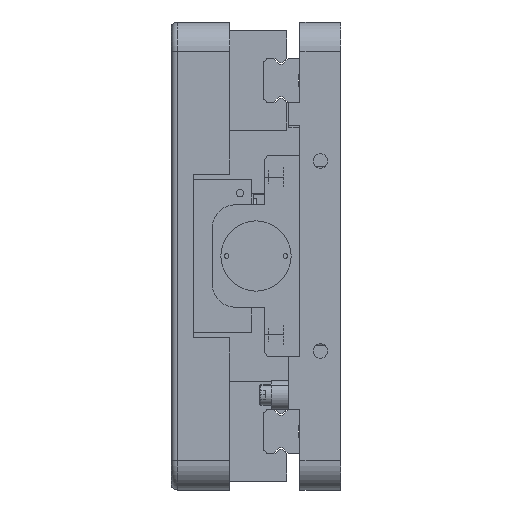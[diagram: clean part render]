
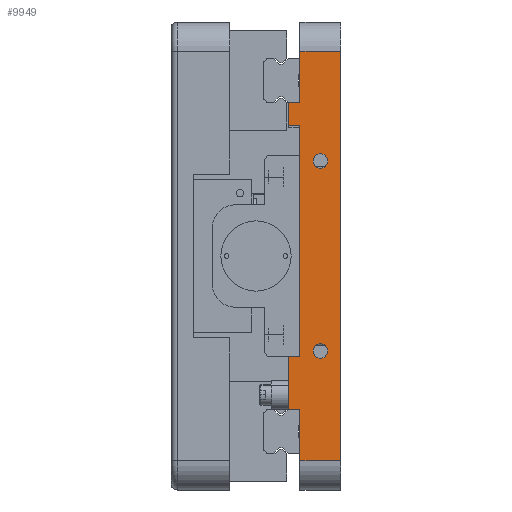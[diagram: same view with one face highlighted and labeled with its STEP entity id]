
A CAD part, left-side view. The second image highlights one B-rep face of the part: STEP entity #9949.
In plain terms, the highlighted planar face has unit normal (-1, 0, 0).
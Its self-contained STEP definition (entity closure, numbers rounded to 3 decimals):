
#179 = VERTEX_POINT ( 'NONE', #90946 ) ;
#828 = LINE ( 'NONE', #59979, #5562 ) ;
#2073 = LINE ( 'NONE', #25555, #38371 ) ;
#2294 = EDGE_CURVE ( 'NONE', #39954, #90303, #96533, .T. ) ;
#2491 = EDGE_CURVE ( 'NONE', #36403, #30332, #14560, .T. ) ;
#2741 = LINE ( 'NONE', #5583, #95250 ) ;
#2960 = ORIENTED_EDGE ( 'NONE', *, *, #2294, .T. ) ;
#3448 = FACE_BOUND ( 'NONE', #56563, .T. ) ;
#3459 = PLANE ( 'NONE',  #17990 ) ;
#4088 = CARTESIAN_POINT ( 'NONE',  ( -261.5, 17.8, -52.5 ) ) ;
#5001 = CIRCLE ( 'NONE', #50780, 2.5 ) ;
#5562 = VECTOR ( 'NONE', #22377, 1000. ) ;
#5583 = CARTESIAN_POINT ( 'NONE',  ( -261.5, 14., -80. ) ) ;
#5595 = LINE ( 'NONE', #10363, #71222 ) ;
#5755 = VERTEX_POINT ( 'NONE', #73834 ) ;
#5859 = DIRECTION ( 'NONE',  ( -1., 0., 0. ) ) ;
#5902 = DIRECTION ( 'NONE',  ( 0., 1., 0. ) ) ;
#5933 = VERTEX_POINT ( 'NONE', #70218 ) ;
#5962 = LINE ( 'NONE', #85434, #68019 ) ;
#8861 = CARTESIAN_POINT ( 'NONE',  ( -261.5, 14., 80. ) ) ;
#9274 = CARTESIAN_POINT ( 'NONE',  ( -261.5, -110.209, -34.5 ) ) ;
#9949 = ADVANCED_FACE ( 'NONE', ( #60838, #3448, #71351 ), #3459, .F. ) ;
#10363 = CARTESIAN_POINT ( 'NONE',  ( -261.5, -523.722, -52.5 ) ) ;
#10428 = VECTOR ( 'NONE', #46252, 1000. ) ;
#11141 = DIRECTION ( 'NONE',  ( 0., 0., 1. ) ) ;
#12021 = VERTEX_POINT ( 'NONE', #62798 ) ;
#12289 = CARTESIAN_POINT ( 'NONE',  ( -261.5, 14., 44.5 ) ) ;
#13191 = VERTEX_POINT ( 'NONE', #91808 ) ;
#13406 = DIRECTION ( 'NONE',  ( 0., 0., -1. ) ) ;
#14560 = CIRCLE ( 'NONE', #58695, 2.5 ) ;
#14819 = ORIENTED_EDGE ( 'NONE', *, *, #58709, .T. ) ;
#15630 = EDGE_CURVE ( 'NONE', #5755, #23147, #5962, .T. ) ;
#17990 = AXIS2_PLACEMENT_3D ( 'NONE', #70853, #26057, #40482 ) ;
#18475 = ORIENTED_EDGE ( 'NONE', *, *, #15630, .T. ) ;
#21573 = ORIENTED_EDGE ( 'NONE', *, *, #43187, .F. ) ;
#22377 = DIRECTION ( 'NONE',  ( 0., 1., 0. ) ) ;
#23058 = CARTESIAN_POINT ( 'NONE',  ( -261.5, 17.8, 44.5 ) ) ;
#23124 = ORIENTED_EDGE ( 'NONE', *, *, #52551, .F. ) ;
#23147 = VERTEX_POINT ( 'NONE', #82208 ) ;
#25406 = DIRECTION ( 'NONE',  ( 0., 0., 1. ) ) ;
#25546 = CARTESIAN_POINT ( 'NONE',  ( -261.5, 14., -34.5 ) ) ;
#25555 = CARTESIAN_POINT ( 'NONE',  ( -261.5, 17.8, -80. ) ) ;
#25813 = LINE ( 'NONE', #72956, #28187 ) ;
#26057 = DIRECTION ( 'NONE',  ( 1., 0., 0. ) ) ;
#27753 = CARTESIAN_POINT ( 'NONE',  ( -261.5, 17.8, -80. ) ) ;
#28070 = DIRECTION ( 'NONE',  ( 0., 0., 1. ) ) ;
#28187 = VECTOR ( 'NONE', #5902, 1000. ) ;
#29798 = ORIENTED_EDGE ( 'NONE', *, *, #54425, .T. ) ;
#30216 = DIRECTION ( 'NONE',  ( 0., 0., 1. ) ) ;
#30332 = VERTEX_POINT ( 'NONE', #66609 ) ;
#30594 = VERTEX_POINT ( 'NONE', #4088 ) ;
#30648 = DIRECTION ( 'NONE',  ( 0., 0., -1. ) ) ;
#31506 = LINE ( 'NONE', #9274, #10428 ) ;
#32656 = DIRECTION ( 'NONE',  ( -1., 0., 0. ) ) ;
#33194 = VECTOR ( 'NONE', #96445, 1000. ) ;
#34245 = DIRECTION ( 'NONE',  ( -1., 0., 0. ) ) ;
#34613 = CARTESIAN_POINT ( 'NONE',  ( -261.5, 0., 70. ) ) ;
#35146 = CIRCLE ( 'NONE', #70793, 2.5 ) ;
#36132 = VERTEX_POINT ( 'NONE', #25546 ) ;
#36403 = VERTEX_POINT ( 'NONE', #83923 ) ;
#36773 = LINE ( 'NONE', #89219, #33194 ) ;
#37346 = ORIENTED_EDGE ( 'NONE', *, *, #66276, .T. ) ;
#37379 = EDGE_CURVE ( 'NONE', #5933, #5755, #2741, .T. ) ;
#37866 = EDGE_CURVE ( 'NONE', #89606, #179, #91590, .T. ) ;
#38371 = VECTOR ( 'NONE', #11141, 1000. ) ;
#39071 = EDGE_CURVE ( 'NONE', #12021, #36132, #45684, .T. ) ;
#39231 = LINE ( 'NONE', #60590, #68477 ) ;
#39954 = VERTEX_POINT ( 'NONE', #56275 ) ;
#40296 = EDGE_CURVE ( 'NONE', #30332, #36403, #48983, .T. ) ;
#40311 = EDGE_CURVE ( 'NONE', #5933, #30594, #5595, .T. ) ;
#40482 = DIRECTION ( 'NONE',  ( 0., 0., -1. ) ) ;
#40488 = ORIENTED_EDGE ( 'NONE', *, *, #40311, .F. ) ;
#40597 = ORIENTED_EDGE ( 'NONE', *, *, #83492, .F. ) ;
#43187 = EDGE_CURVE ( 'NONE', #30594, #80204, #2073, .T. ) ;
#44436 = DIRECTION ( 'NONE',  ( 0., 0., 1. ) ) ;
#45253 = ORIENTED_EDGE ( 'NONE', *, *, #83206, .F. ) ;
#45684 = LINE ( 'NONE', #12289, #81888 ) ;
#46252 = DIRECTION ( 'NONE',  ( 0., 1., 0. ) ) ;
#47438 = ORIENTED_EDGE ( 'NONE', *, *, #40296, .F. ) ;
#48333 = DIRECTION ( 'NONE',  ( 0., 1., 0. ) ) ;
#48883 = ORIENTED_EDGE ( 'NONE', *, *, #37379, .T. ) ;
#48983 = CIRCLE ( 'NONE', #84143, 2.5 ) ;
#50780 = AXIS2_PLACEMENT_3D ( 'NONE', #93732, #34245, #94071 ) ;
#52097 = ORIENTED_EDGE ( 'NONE', *, *, #2491, .F. ) ;
#52211 = EDGE_CURVE ( 'NONE', #90303, #179, #36773, .T. ) ;
#52551 = EDGE_CURVE ( 'NONE', #13191, #65948, #5001, .T. ) ;
#54425 = EDGE_CURVE ( 'NONE', #81012, #39954, #828, .T. ) ;
#56275 = CARTESIAN_POINT ( 'NONE',  ( -261.5, 14., 70. ) ) ;
#56563 = EDGE_LOOP ( 'NONE', ( #47438, #52097 ) ) ;
#58695 = AXIS2_PLACEMENT_3D ( 'NONE', #73876, #5859, #44436 ) ;
#58709 = EDGE_CURVE ( 'NONE', #23147, #81012, #39231, .T. ) ;
#59979 = CARTESIAN_POINT ( 'NONE',  ( -261.5, 17.8, 70. ) ) ;
#60284 = VECTOR ( 'NONE', #91628, 1000. ) ;
#60590 = CARTESIAN_POINT ( 'NONE',  ( -261.5, 0., -80. ) ) ;
#60838 = FACE_BOUND ( 'NONE', #67858, .T. ) ;
#62571 = DIRECTION ( 'NONE',  ( 0., -1., 0. ) ) ;
#62798 = CARTESIAN_POINT ( 'NONE',  ( -261.5, 14., 44.5 ) ) ;
#65841 = VECTOR ( 'NONE', #28070, 1000. ) ;
#65948 = VERTEX_POINT ( 'NONE', #94410 ) ;
#66276 = EDGE_CURVE ( 'NONE', #36132, #80204, #31506, .T. ) ;
#66609 = CARTESIAN_POINT ( 'NONE',  ( -261.5, 7., 35. ) ) ;
#67858 = EDGE_LOOP ( 'NONE', ( #23124, #40597 ) ) ;
#68019 = VECTOR ( 'NONE', #62571, 1000. ) ;
#68477 = VECTOR ( 'NONE', #30216, 1000. ) ;
#70218 = CARTESIAN_POINT ( 'NONE',  ( -261.5, 14., -52.5 ) ) ;
#70234 = DIRECTION ( 'NONE',  ( -1., 0., 0. ) ) ;
#70793 = AXIS2_PLACEMENT_3D ( 'NONE', #77756, #32656, #85922 ) ;
#70853 = CARTESIAN_POINT ( 'NONE',  ( -261.5, 17.8, -80. ) ) ;
#71222 = VECTOR ( 'NONE', #48333, 1000. ) ;
#71351 = FACE_OUTER_BOUND ( 'NONE', #97089, .T. ) ;
#72956 = CARTESIAN_POINT ( 'NONE',  ( -261.5, -110.209, 44.5 ) ) ;
#73834 = CARTESIAN_POINT ( 'NONE',  ( -261.5, 14., -70. ) ) ;
#73876 = CARTESIAN_POINT ( 'NONE',  ( -261.5, 7., 32.5 ) ) ;
#77756 = CARTESIAN_POINT ( 'NONE',  ( -261.5, 7., -32.5 ) ) ;
#78550 = ORIENTED_EDGE ( 'NONE', *, *, #37866, .F. ) ;
#80204 = VERTEX_POINT ( 'NONE', #87147 ) ;
#80986 = ORIENTED_EDGE ( 'NONE', *, *, #39071, .T. ) ;
#81012 = VERTEX_POINT ( 'NONE', #34613 ) ;
#81888 = VECTOR ( 'NONE', #30648, 1000. ) ;
#82208 = CARTESIAN_POINT ( 'NONE',  ( -261.5, 0., -70. ) ) ;
#83206 = EDGE_CURVE ( 'NONE', #12021, #89606, #25813, .T. ) ;
#83492 = EDGE_CURVE ( 'NONE', #65948, #13191, #35146, .T. ) ;
#83923 = CARTESIAN_POINT ( 'NONE',  ( -261.5, 7., 30. ) ) ;
#84143 = AXIS2_PLACEMENT_3D ( 'NONE', #92804, #70234, #25406 ) ;
#85434 = CARTESIAN_POINT ( 'NONE',  ( -261.5, 17.8, -70. ) ) ;
#85922 = DIRECTION ( 'NONE',  ( 0., 0., 1. ) ) ;
#87147 = CARTESIAN_POINT ( 'NONE',  ( -261.5, 17.8, -34.5 ) ) ;
#89219 = CARTESIAN_POINT ( 'NONE',  ( -261.5, -523.722, 52.5 ) ) ;
#89606 = VERTEX_POINT ( 'NONE', #23058 ) ;
#90303 = VERTEX_POINT ( 'NONE', #92248 ) ;
#90946 = CARTESIAN_POINT ( 'NONE',  ( -261.5, 17.8, 52.5 ) ) ;
#91590 = LINE ( 'NONE', #27753, #65841 ) ;
#91628 = DIRECTION ( 'NONE',  ( 0., 0., -1. ) ) ;
#91808 = CARTESIAN_POINT ( 'NONE',  ( -261.5, 7., -30. ) ) ;
#92248 = CARTESIAN_POINT ( 'NONE',  ( -261.5, 14., 52.5 ) ) ;
#92804 = CARTESIAN_POINT ( 'NONE',  ( -261.5, 7., 32.5 ) ) ;
#93732 = CARTESIAN_POINT ( 'NONE',  ( -261.5, 7., -32.5 ) ) ;
#94071 = DIRECTION ( 'NONE',  ( 0., 0., 1. ) ) ;
#94410 = CARTESIAN_POINT ( 'NONE',  ( -261.5, 7., -35. ) ) ;
#94740 = ORIENTED_EDGE ( 'NONE', *, *, #52211, .T. ) ;
#95250 = VECTOR ( 'NONE', #13406, 1000. ) ;
#96445 = DIRECTION ( 'NONE',  ( 0., 1., 0. ) ) ;
#96533 = LINE ( 'NONE', #8861, #60284 ) ;
#97089 = EDGE_LOOP ( 'NONE', ( #14819, #29798, #2960, #94740, #78550, #45253, #80986, #37346, #21573, #40488, #48883, #18475 ) ) ;
